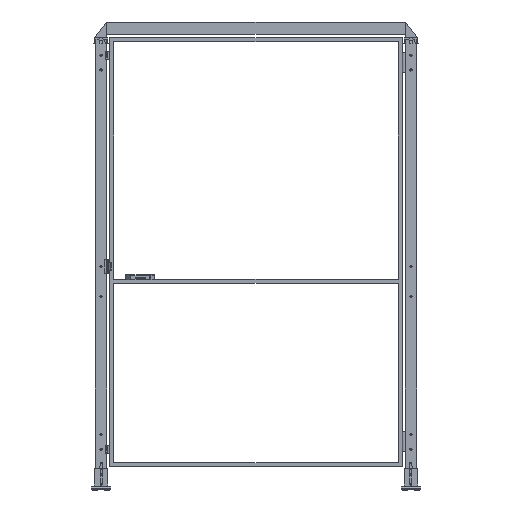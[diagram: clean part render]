
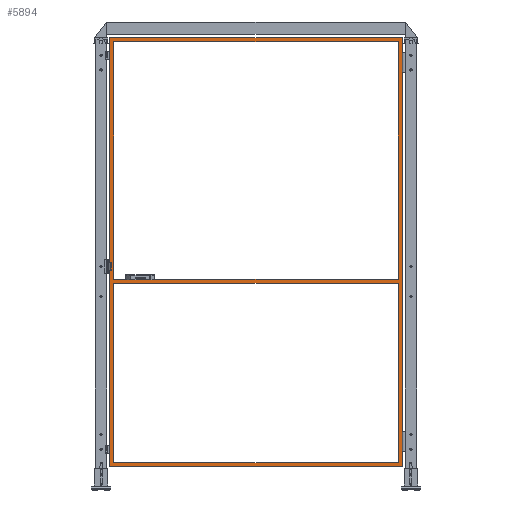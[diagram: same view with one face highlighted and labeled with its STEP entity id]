
A CAD part, top view. The second image highlights one B-rep face of the part: STEP entity #5894.
In plain terms, the highlighted planar face has unit normal (0, 0, 1).
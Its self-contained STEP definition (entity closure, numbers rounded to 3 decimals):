
#5894=ADVANCED_FACE('',(#12068,#12069,#12070),#12071,.F.);
#12068=FACE_BOUND('',#19807,.T.);
#12069=FACE_OUTER_BOUND('',#19808,.T.);
#12070=FACE_BOUND('',#19809,.T.);
#12071=PLANE('',#19810);
#19807=EDGE_LOOP('',(#37257,#37258,#37259,#37260));
#19808=EDGE_LOOP('',(#37261,#37262,#37263,#37264));
#19809=EDGE_LOOP('',(#37265,#37266,#37267,#37268));
#19810=AXIS2_PLACEMENT_3D('',#37269,#37270,#37271);
#37257=ORIENTED_EDGE('',*,*,#44399,.F.);
#37258=ORIENTED_EDGE('',*,*,#44405,.T.);
#37259=ORIENTED_EDGE('',*,*,#44427,.T.);
#37260=ORIENTED_EDGE('',*,*,#44432,.F.);
#37261=ORIENTED_EDGE('',*,*,#44443,.F.);
#37262=ORIENTED_EDGE('',*,*,#44437,.F.);
#37263=ORIENTED_EDGE('',*,*,#44407,.F.);
#37264=ORIENTED_EDGE('',*,*,#44441,.F.);
#37265=ORIENTED_EDGE('',*,*,#44429,.F.);
#37266=ORIENTED_EDGE('',*,*,#44424,.F.);
#37267=ORIENTED_EDGE('',*,*,#44435,.T.);
#37268=ORIENTED_EDGE('',*,*,#44444,.T.);
#37269=CARTESIAN_POINT('',(765.0,130.0,10.0));
#37270=DIRECTION('',(0.,0.0,-1.0));
#37271=DIRECTION('',(-1.0,0.0,0.));
#44399=EDGE_CURVE('',#54881,#54884,#54885,.T.);
#44405=EDGE_CURVE('',#54881,#54892,#54894,.T.);
#44407=EDGE_CURVE('',#54896,#54897,#54898,.T.);
#44424=EDGE_CURVE('',#54924,#54922,#54926,.T.);
#44427=EDGE_CURVE('',#54892,#54928,#54930,.T.);
#44429=EDGE_CURVE('',#54922,#54932,#54933,.T.);
#44432=EDGE_CURVE('',#54884,#54928,#54936,.T.);
#44435=EDGE_CURVE('',#54924,#54938,#54940,.T.);
#44437=EDGE_CURVE('',#54897,#54942,#54943,.T.);
#44441=EDGE_CURVE('',#54946,#54896,#54948,.T.);
#44443=EDGE_CURVE('',#54942,#54946,#54950,.T.);
#44444=EDGE_CURVE('',#54938,#54932,#54951,.T.);
#54881=VERTEX_POINT('',#70715);
#54884=VERTEX_POINT('',#70719);
#54885=LINE('',#70720,#70721);
#54892=VERTEX_POINT('',#70731);
#54894=LINE('',#70734,#70735);
#54896=VERTEX_POINT('',#70737);
#54897=VERTEX_POINT('',#70738);
#54898=LINE('',#70739,#70740);
#54922=VERTEX_POINT('',#70776);
#54924=VERTEX_POINT('',#70779);
#54926=LINE('',#70782,#70783);
#54928=VERTEX_POINT('',#70785);
#54930=LINE('',#70788,#70789);
#54932=VERTEX_POINT('',#70791);
#54933=LINE('',#70792,#70793);
#54936=LINE('',#70797,#70798);
#54938=VERTEX_POINT('',#70800);
#54940=LINE('',#70803,#70804);
#54942=VERTEX_POINT('',#70806);
#54943=LINE('',#70807,#70808);
#54946=VERTEX_POINT('',#70812);
#54948=LINE('',#70815,#70816);
#54950=LINE('',#70818,#70819);
#54951=LINE('',#70820,#70821);
#70715=CARTESIAN_POINT('',(1495.0,2300.0,10.));
#70719=CARTESIAN_POINT('',(35.,2300.0,10.0));
#70720=CARTESIAN_POINT('',(765.0,2300.0,10.0));
#70721=VECTOR('',#78397,1.0);
#70731=CARTESIAN_POINT('',(1495.0,1080.0,10.));
#70734=CARTESIAN_POINT('',(1495.0,1220.0,10.));
#70735=VECTOR('',#78402,1.0);
#70737=CARTESIAN_POINT('',(15.0,120.0,10.0));
#70738=CARTESIAN_POINT('',(15.,2320.0,10.0));
#70739=CARTESIAN_POINT('',(15.0,130.0,10.0));
#70740=VECTOR('',#78403,1.0);
#70776=CARTESIAN_POINT('',(35.,1060.0,10.0));
#70779=CARTESIAN_POINT('',(1495.0,1060.0,10.));
#70782=CARTESIAN_POINT('',(765.0,1060.0,10.0));
#70783=VECTOR('',#78418,1.0);
#70785=CARTESIAN_POINT('',(35.,1080.0,10.0));
#70788=CARTESIAN_POINT('',(765.0,1080.0,10.0));
#70789=VECTOR('',#78420,1.0);
#70791=CARTESIAN_POINT('',(35.0,140.0,10.0));
#70792=CARTESIAN_POINT('',(35.,1220.0,10.0));
#70793=VECTOR('',#78421,1.0);
#70797=CARTESIAN_POINT('',(35.,1220.0,10.0));
#70798=VECTOR('',#78423,1.0);
#70800=CARTESIAN_POINT('',(1495.0,140.0,10.));
#70803=CARTESIAN_POINT('',(1495.0,1220.0,10.));
#70804=VECTOR('',#78425,1.0);
#70806=CARTESIAN_POINT('',(1515.0,2320.0,10.));
#70807=CARTESIAN_POINT('',(25.,2320.0,10.0));
#70808=VECTOR('',#78426,1.0);
#70812=CARTESIAN_POINT('',(1515.0,120.0,10.));
#70815=CARTESIAN_POINT('',(765.0,120.0,10.0));
#70816=VECTOR('',#78429,1.0);
#70818=CARTESIAN_POINT('',(1515.0,1220.0,10.));
#70819=VECTOR('',#78430,1.0);
#70820=CARTESIAN_POINT('',(765.0,140.0,10.0));
#70821=VECTOR('',#78431,1.0);
#78397=DIRECTION('',(-1.0,0.0,0.));
#78402=DIRECTION('',(0.,-1.0,0.));
#78403=DIRECTION('',(0.0,1.0,0.0));
#78418=DIRECTION('',(-1.0,0.0,0.));
#78420=DIRECTION('',(-1.0,0.0,0.));
#78421=DIRECTION('',(0.,-1.0,0.));
#78423=DIRECTION('',(0.,-1.0,0.));
#78425=DIRECTION('',(0.,-1.0,0.));
#78426=DIRECTION('',(1.0,0.,0.));
#78429=DIRECTION('',(-1.0,0.0,0.));
#78430=DIRECTION('',(0.,-1.0,0.));
#78431=DIRECTION('',(-1.0,0.0,0.));
